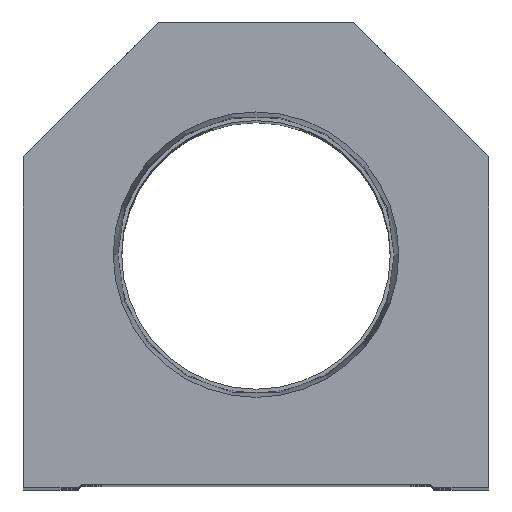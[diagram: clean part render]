
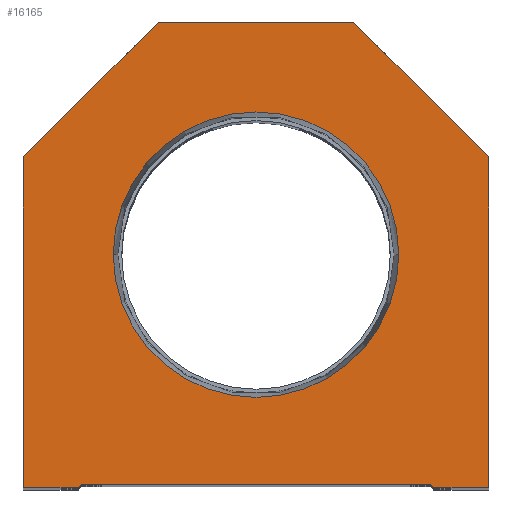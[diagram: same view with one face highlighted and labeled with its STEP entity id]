
A CAD part, top view. The second image highlights one B-rep face of the part: STEP entity #16165.
In plain terms, the highlighted planar face has unit normal (0, 0, 1).
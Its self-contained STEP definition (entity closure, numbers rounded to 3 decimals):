
#188 = ORIENTED_EDGE ( 'NONE', *, *, #15669, .T. ) ;
#562 = EDGE_CURVE ( 'NONE', #8655, #6512, #17788, .T. ) ;
#789 = LINE ( 'NONE', #5076, #13902 ) ;
#856 = CARTESIAN_POINT ( 'NONE',  ( 16., 76.2, 0. ) ) ;
#937 = CARTESIAN_POINT ( 'NONE',  ( -28.6, 0.5, 0. ) ) ;
#973 = ORIENTED_EDGE ( 'NONE', *, *, #16764, .T. ) ;
#1075 = VERTEX_POINT ( 'NONE', #9539 ) ;
#1206 = DIRECTION ( 'NONE',  ( 1., 0., 0. ) ) ;
#1317 = VECTOR ( 'NONE', #12494, 1000. ) ;
#1339 = CARTESIAN_POINT ( 'NONE',  ( -38.1, 54.1, 0. ) ) ;
#1375 = AXIS2_PLACEMENT_3D ( 'NONE', #7422, #5980, #11975 ) ;
#1393 = DIRECTION ( 'NONE',  ( 0., 0., 1. ) ) ;
#1745 = VERTEX_POINT ( 'NONE', #856 ) ;
#1748 = LINE ( 'NONE', #16319, #15507 ) ;
#1984 = LINE ( 'NONE', #3501, #17982 ) ;
#1990 = ORIENTED_EDGE ( 'NONE', *, *, #12337, .T. ) ;
#2076 = DIRECTION ( 'NONE',  ( 1., 0., 0. ) ) ;
#2088 = EDGE_CURVE ( 'NONE', #1745, #13520, #15379, .T. ) ;
#2134 = PLANE ( 'NONE',  #6131 ) ;
#2171 = EDGE_CURVE ( 'NONE', #14679, #1075, #5739, .T. ) ;
#2231 = FACE_BOUND ( 'NONE', #4040, .T. ) ;
#2340 = CARTESIAN_POINT ( 'NONE',  ( 16., 76.2, 0. ) ) ;
#2498 = LINE ( 'NONE', #10966, #1317 ) ;
#2565 = EDGE_CURVE ( 'NONE', #6512, #8655, #5664, .T. ) ;
#2919 = VERTEX_POINT ( 'NONE', #15658 ) ;
#3501 = CARTESIAN_POINT ( 'NONE',  ( -28.6, 0., 0. ) ) ;
#3538 = DIRECTION ( 'NONE',  ( 0.707, -0.707, 0. ) ) ;
#3696 = CARTESIAN_POINT ( 'NONE',  ( -28.6, 0.5, 0. ) ) ;
#3867 = VECTOR ( 'NONE', #9765, 1000. ) ;
#4040 = EDGE_LOOP ( 'NONE', ( #18717, #13178 ) ) ;
#4142 = DIRECTION ( 'NONE',  ( -0.707, 0.707, 0. ) ) ;
#4188 = VECTOR ( 'NONE', #6775, 1000. ) ;
#4329 = LINE ( 'NONE', #7387, #6144 ) ;
#4689 = EDGE_CURVE ( 'NONE', #16808, #12092, #15244, .T. ) ;
#4878 = CARTESIAN_POINT ( 'NONE',  ( -16., 76.2, 0. ) ) ;
#5076 = CARTESIAN_POINT ( 'NONE',  ( 14.55, 14.55, 0. ) ) ;
#5092 = DIRECTION ( 'NONE',  ( 0., 0., 1. ) ) ;
#5354 = CARTESIAN_POINT ( 'NONE',  ( -14.55, 14.55, 0. ) ) ;
#5664 = CIRCLE ( 'NONE', #15426, 23.374 ) ;
#5739 = LINE ( 'NONE', #7273, #10234 ) ;
#5964 = ORIENTED_EDGE ( 'NONE', *, *, #2171, .T. ) ;
#5980 = DIRECTION ( 'NONE',  ( 0., 0., 1. ) ) ;
#6131 = AXIS2_PLACEMENT_3D ( 'NONE', #7949, #5092, #8048 ) ;
#6144 = VECTOR ( 'NONE', #4142, 1000. ) ;
#6270 = EDGE_CURVE ( 'NONE', #13890, #13254, #1748, .T. ) ;
#6512 = VERTEX_POINT ( 'NONE', #16504 ) ;
#6775 = DIRECTION ( 'NONE',  ( 0.707, 0.707, 0. ) ) ;
#7081 = CARTESIAN_POINT ( 'NONE',  ( -38.1, 0., 0. ) ) ;
#7273 = CARTESIAN_POINT ( 'NONE',  ( 38.1, 0., 0. ) ) ;
#7387 = CARTESIAN_POINT ( 'NONE',  ( 38.1, 54.1, 0. ) ) ;
#7422 = CARTESIAN_POINT ( 'NONE',  ( 0., 38.1, 0. ) ) ;
#7562 = DIRECTION ( 'NONE',  ( 0., -1., 0. ) ) ;
#7763 = CARTESIAN_POINT ( 'NONE',  ( -29.1, 0., 0. ) ) ;
#7949 = CARTESIAN_POINT ( 'NONE',  ( 0., 0., 0. ) ) ;
#8048 = DIRECTION ( 'NONE',  ( 1., 0., 0. ) ) ;
#8064 = LINE ( 'NONE', #11178, #12590 ) ;
#8655 = VERTEX_POINT ( 'NONE', #12484 ) ;
#9404 = DIRECTION ( 'NONE',  ( 1., 0., 0. ) ) ;
#9539 = CARTESIAN_POINT ( 'NONE',  ( 38.1, 54.1, 0. ) ) ;
#9765 = DIRECTION ( 'NONE',  ( -1., 0., 0. ) ) ;
#10234 = VECTOR ( 'NONE', #12806, 1000. ) ;
#10550 = ORIENTED_EDGE ( 'NONE', *, *, #17962, .T. ) ;
#10930 = EDGE_LOOP ( 'NONE', ( #16404, #12146, #188, #16282, #1990, #5964, #973, #11791, #10550, #11829 ) ) ;
#10966 = CARTESIAN_POINT ( 'NONE',  ( -38.1, 54.1, 0. ) ) ;
#11110 = LINE ( 'NONE', #937, #17571 ) ;
#11178 = CARTESIAN_POINT ( 'NONE',  ( 28.6, 0., 0. ) ) ;
#11791 = ORIENTED_EDGE ( 'NONE', *, *, #2088, .T. ) ;
#11829 = ORIENTED_EDGE ( 'NONE', *, *, #6270, .T. ) ;
#11975 = DIRECTION ( 'NONE',  ( 1., 0., 0. ) ) ;
#12092 = VERTEX_POINT ( 'NONE', #3696 ) ;
#12146 = ORIENTED_EDGE ( 'NONE', *, *, #4689, .T. ) ;
#12337 = EDGE_CURVE ( 'NONE', #12521, #14679, #8064, .T. ) ;
#12484 = CARTESIAN_POINT ( 'NONE',  ( -23.374, 38.1, 0. ) ) ;
#12494 = DIRECTION ( 'NONE',  ( -0.707, -0.707, 0. ) ) ;
#12521 = VERTEX_POINT ( 'NONE', #16806 ) ;
#12547 = DIRECTION ( 'NONE',  ( 1., 0., 0. ) ) ;
#12590 = VECTOR ( 'NONE', #9404, 1000. ) ;
#12806 = DIRECTION ( 'NONE',  ( 0., 1., 0. ) ) ;
#13178 = ORIENTED_EDGE ( 'NONE', *, *, #562, .F. ) ;
#13254 = VERTEX_POINT ( 'NONE', #7081 ) ;
#13520 = VERTEX_POINT ( 'NONE', #4878 ) ;
#13552 = EDGE_CURVE ( 'NONE', #2919, #12521, #789, .T. ) ;
#13890 = VERTEX_POINT ( 'NONE', #1339 ) ;
#13902 = VECTOR ( 'NONE', #3538, 1000. ) ;
#14679 = VERTEX_POINT ( 'NONE', #16299 ) ;
#15174 = FACE_OUTER_BOUND ( 'NONE', #10930, .T. ) ;
#15244 = LINE ( 'NONE', #5354, #4188 ) ;
#15379 = LINE ( 'NONE', #2340, #3867 ) ;
#15426 = AXIS2_PLACEMENT_3D ( 'NONE', #18720, #1393, #1206 ) ;
#15507 = VECTOR ( 'NONE', #7562, 1000. ) ;
#15658 = CARTESIAN_POINT ( 'NONE',  ( 28.6, 0.5, 0. ) ) ;
#15669 = EDGE_CURVE ( 'NONE', #12092, #2919, #11110, .T. ) ;
#16165 = ADVANCED_FACE ( 'NONE', ( #2231, #15174 ), #2134, .T. ) ;
#16282 = ORIENTED_EDGE ( 'NONE', *, *, #13552, .T. ) ;
#16299 = CARTESIAN_POINT ( 'NONE',  ( 38.1, 0., 0. ) ) ;
#16319 = CARTESIAN_POINT ( 'NONE',  ( -38.1, 0., 0. ) ) ;
#16404 = ORIENTED_EDGE ( 'NONE', *, *, #18457, .T. ) ;
#16504 = CARTESIAN_POINT ( 'NONE',  ( 23.374, 38.1, 0. ) ) ;
#16764 = EDGE_CURVE ( 'NONE', #1075, #1745, #4329, .T. ) ;
#16806 = CARTESIAN_POINT ( 'NONE',  ( 29.1, 0., 0. ) ) ;
#16808 = VERTEX_POINT ( 'NONE', #7763 ) ;
#17571 = VECTOR ( 'NONE', #12547, 1000. ) ;
#17788 = CIRCLE ( 'NONE', #1375, 23.374 ) ;
#17962 = EDGE_CURVE ( 'NONE', #13520, #13890, #2498, .T. ) ;
#17982 = VECTOR ( 'NONE', #2076, 1000. ) ;
#18457 = EDGE_CURVE ( 'NONE', #13254, #16808, #1984, .T. ) ;
#18717 = ORIENTED_EDGE ( 'NONE', *, *, #2565, .F. ) ;
#18720 = CARTESIAN_POINT ( 'NONE',  ( 0., 38.1, 0. ) ) ;
